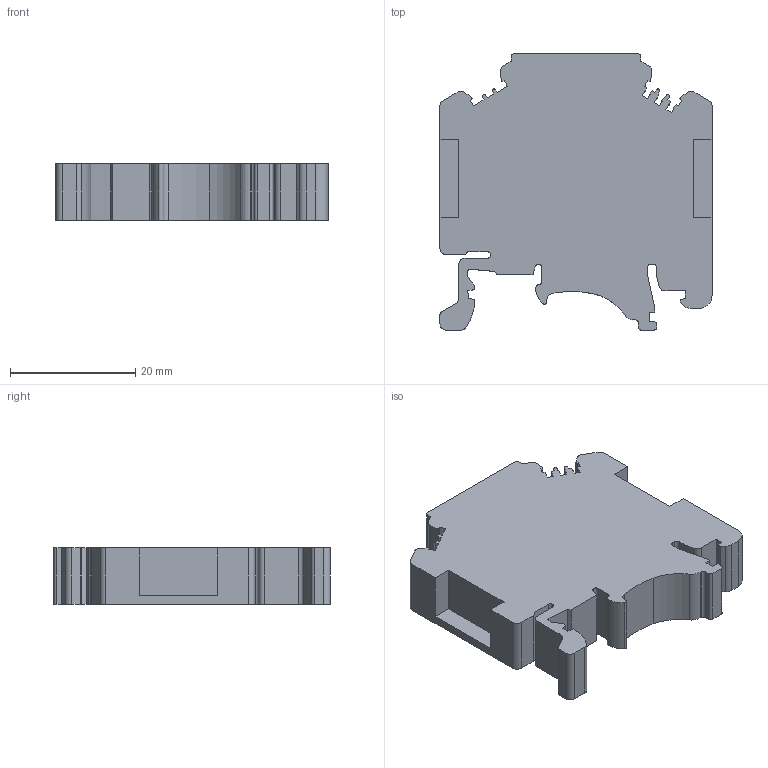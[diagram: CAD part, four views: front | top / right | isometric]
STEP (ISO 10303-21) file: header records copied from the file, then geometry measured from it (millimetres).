
FILE_DESCRIPTION(('OneSpaceDesigner STEP Export'),'2;1');
FILE_NAME('0790530_otta25_select.stp','2004-11-15T12:31:06',(''),(''),'OneSpace Designer STEP processor (Jan. 2003) for AP203(Solid Model)','OneSpace Designer 12.01C 26-Mar-2004 (C) CoCreate Software GmbH','');
FILE_SCHEMA(('CONFIG_CONTROL_DESIGN'));
Length unit declared in the file: millimetre
Products named in the file (2): 0790530_otta25_select
Assembly tree (1 placements, depth 2):
  0790530_otta25_select
    0790530_otta25_select
Bounding box: 43.5 x 44.2 x 8.97 mm (x, y, z)
Volume: 12927.4 mm3; surface area: 5411.9 mm2
Topology: 1 solids, 1 shells, 172 faces, 504 edges, 336 vertices
Faces by surface type: plane 112, cylinder 60
Entity records: 6655 total; most frequent: ORIENTED_EDGE 1008, CARTESIAN_POINT 973, DIRECTION 892, EDGE_CURVE 504, VECTOR 382, LINE 382, VERTEX_POINT 336, AXIS2_PLACEMENT_3D 255
